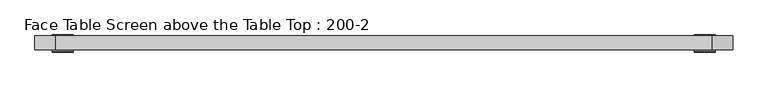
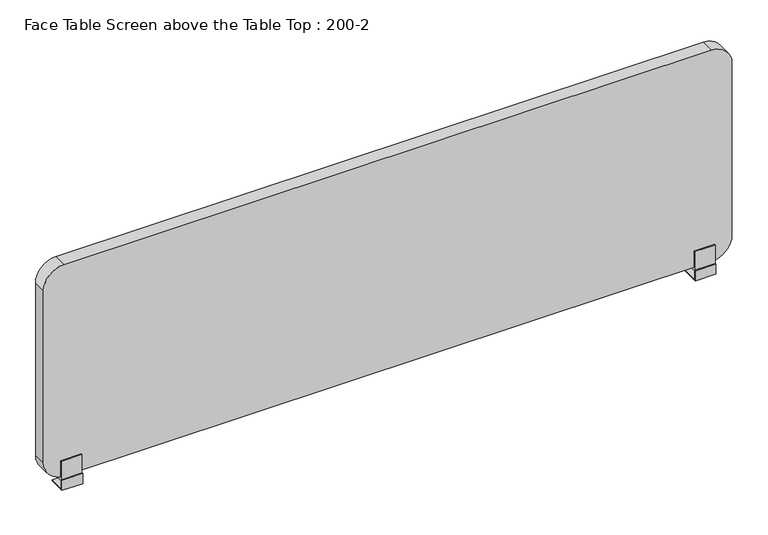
"""IFC4 building model written with IfcOpenShell, lengths in millimetres: furniture geometry, Face Table Screen above the Table Top : 200-2."""

from ifc_helpers import new_model, si_unit, point, frame, frame_2d, origin, place, context, project, spatial, polyline, circle_curve, trimmed, segment, composite_curve, outline, extrude, source, transform, mapped, element, save
from ifc_brep_helpers import plane_surface, cylinder_surface, advanced_brep


def face_table_screen_above_the_table_top_200_2_7b3353fa(model_context):
    return source(origin(), model_context, "Body", "SolidModel", [
        advanced_brep(
        [(-925.0, 0.0, -39.4406633), (-915.0, 0.0, -39.4406633), (-915.0, 0.0, -28.0), (-925.0, 0.0, -28.0), (-950.0, 23.0, -25.0), (-950.0, -23.0, -25.0), (-890.0, -23.0, -25.0), (-890.0, 23.0, -25.0), (-950.0, -23.0, 0.0), (-950.0, 23.0, -28.0), (-950.0, -26.0, -28.0), (-950.0, -26.0, 3.0), (-950.0, -23.0, 3.0), (-950.0, -23.0, 60.0), (-950.0, -20.0, 60.0), (-950.0, -20.0, 10.0), (-950.0, 20.0, 10.0), (-950.0, 20.0, 60.0), (-950.0, 23.0, 60.0), (-950.0, 23.0, 0.0), (-890.0, -23.0, 0.0), (-890.0, 23.0, 0.0), (-890.0, 23.0, 60.0), (-890.0, 20.0, 60.0), (-890.0, 20.0, 10.0), (-890.0, -20.0, 10.0), (-890.0, -20.0, 60.0), (-890.0, -23.0, 60.0), (-890.0, -23.0, 3.0), (-890.0, -26.0, 3.0), (-890.0, -26.0, -28.0), (-890.0, 23.0, -28.0)],
        [
            (0, 1, circle_curve(frame((-920.0, 0.0, -39.4406633), z_axis=(0.0, 0.0, -1.0), x_axis=(1.0, 0.0, 0.0)), 5.0)),
            (1, 0, circle_curve(frame((-920.0, 0.0, -39.4406633), z_axis=(0.0, 0.0, -1.0), x_axis=(1.0, 0.0, 0.0)), 5.0)),
            (1, 2),
            (2, 3, circle_curve(frame((-920.0, 0.0, -28.0), z_axis=(0.0, 0.0, -1.0), x_axis=(1.0, 0.0, 0.0)), 5.0)),
            (3, 0),
            (3, 2, circle_curve(frame((-920.0, 0.0, -28.0), z_axis=(0.0, 0.0, -1.0), x_axis=(1.0, 0.0, 0.0)), 5.0)),
            (4, 5),
            (5, 6),
            (6, 7),
            (7, 4),
            (8, 5),
            (4, 9),
            (9, 10),
            (10, 11),
            (11, 12),
            (12, 13),
            (13, 14),
            (14, 15),
            (15, 16),
            (16, 17),
            (17, 18),
            (18, 19),
            (19, 8),
            (20, 21),
            (21, 22),
            (22, 23),
            (23, 24),
            (24, 25),
            (25, 26),
            (26, 27),
            (27, 28),
            (28, 29),
            (29, 30),
            (30, 31),
            (31, 7),
            (6, 20),
            (19, 21),
            (20, 8),
            (18, 22),
            (17, 23),
            (16, 24),
            (15, 25),
            (14, 26),
            (13, 27),
            (12, 28),
            (11, 29),
            (10, 30),
            (9, 31),
        ],
        [
            plane_surface(frame((-915.0, 0.0, -39.4406633), z_axis=(0.0, 0.0, -1.0), x_axis=(0.0, -1.0, 0.0))),
            cylinder_surface(frame((-920.0, 0.0, -39.4406633), z_axis=(0.0, 0.0, 1.0), x_axis=(1.0, 0.0, 0.0)), 5.0),
            plane_surface(frame((-915.0, 0.0, -25.0), z_axis=(0.0, 0.0, 1.0), x_axis=(0.0, 1.0, 0.0))),
            plane_surface(frame((-950.0, 23.0, 0.0), z_axis=(-1.0, 0.0, 0.0), x_axis=(0.0, -1.0, 0.0))),
            plane_surface(frame((-890.0, 23.0, 0.0), z_axis=(1.0, 0.0, 0.0), x_axis=(0.0, 1.0, 0.0))),
            plane_surface(frame((-890.0, -23.0, 0.0), z_axis=(0.0, 0.0, -1.0), x_axis=(-1.0, 0.0, 0.0))),
            plane_surface(frame((-890.0, 23.0, 0.0), z_axis=(0.0, 1.0, 0.0), x_axis=(-1.0, 0.0, 0.0))),
            plane_surface(frame((-890.0, 23.0, 60.0), z_axis=(0.0, 0.0, 1.0), x_axis=(-1.0, 0.0, 0.0))),
            plane_surface(frame((-890.0, 20.0, 60.0), z_axis=(0.0, -1.0, 0.0), x_axis=(-1.0, 0.0, 0.0))),
            plane_surface(frame((-890.0, 20.0, 10.0), z_axis=(0.0, 0.0, 1.0), x_axis=(-1.0, 0.0, 0.0))),
            plane_surface(frame((-890.0, -20.0, 10.0), z_axis=(0.0, 1.0, 0.0), x_axis=(-1.0, 0.0, 0.0))),
            plane_surface(frame((-890.0, -20.0, 60.0), z_axis=(0.0, 0.0, 1.0), x_axis=(-1.0, 0.0, 0.0))),
            plane_surface(frame((-890.0, -23.0, 60.0), z_axis=(0.0, -1.0, 0.0), x_axis=(-1.0, 0.0, 0.0))),
            plane_surface(frame((-890.0, -23.0, 3.0), z_axis=(0.0, 0.0, 1.0), x_axis=(-1.0, 0.0, 0.0))),
            plane_surface(frame((-890.0, -26.0, 3.0), z_axis=(0.0, -1.0, 0.0), x_axis=(-1.0, 0.0, 0.0))),
            plane_surface(frame((-890.0, -26.0, -28.0), z_axis=(0.0, 0.0, -1.0), x_axis=(-1.0, 0.0, 0.0))),
            plane_surface(frame((-890.0, 23.0, -28.0), z_axis=(0.0, 1.0, 0.0), x_axis=(-1.0, 0.0, 0.0))),
            plane_surface(frame((-890.0, -23.0, -25.0), z_axis=(0.0, 1.0, 0.0), x_axis=(-1.0, 0.0, 0.0))),
        ],
        [
            (0, [[1, 2]]),
            (1, [[-2, 3, 4, 5]]),
            (1, [[-1, -5, 6, -3]]),
            (2, [[7, 8, 9, 10]]),
            (3, [[11, -7, 12, 13, 14, 15, 16, 17, 18, 19, 20, 21, 22, 23]]),
            (4, [[24, 25, 26, 27, 28, 29, 30, 31, 32, 33, 34, 35, -9, 36]]),
            (5, [[-23, 37, -24, 38]]),
            (6, [[-22, 39, -25, -37]]),
            (7, [[-21, 40, -26, -39]]),
            (8, [[-20, 41, -27, -40]]),
            (9, [[-19, 42, -28, -41]]),
            (10, [[-18, 43, -29, -42]]),
            (11, [[-17, 44, -30, -43]]),
            (12, [[-16, 45, -31, -44]]),
            (13, [[-15, 46, -32, -45]]),
            (14, [[-14, 47, -33, -46]]),
            (15, [[-13, 48, -34, -47], [-4, -6]]),
            (16, [[-12, -10, -35, -48]]),
            (17, [[-11, -38, -36, -8]]),
        ],
    ),
        advanced_brep(
        [(915.0, 0.0, -39.4406633), (925.0, 0.0, -39.4406633), (925.0, 0.0, -28.0), (915.0, 0.0, -28.0), (890.0, 23.0, -25.0), (890.0, -23.0, -25.0), (950.0, -23.0, -25.0), (950.0, 23.0, -25.0), (890.0, -23.0, 0.0), (890.0, 23.0, -28.0), (890.0, -26.0, -28.0), (890.0, -26.0, 3.0), (890.0, -23.0, 3.0), (890.0, -23.0, 60.0), (890.0, -20.0, 60.0), (890.0, -20.0, 10.0), (890.0, 20.0, 10.0), (890.0, 20.0, 60.0), (890.0, 23.0, 60.0), (890.0, 23.0, 0.0), (950.0, -23.0, 0.0), (950.0, 23.0, 0.0), (950.0, 23.0, 60.0), (950.0, 20.0, 60.0), (950.0, 20.0, 10.0), (950.0, -20.0, 10.0), (950.0, -20.0, 60.0), (950.0, -23.0, 60.0), (950.0, -23.0, 3.0), (950.0, -26.0, 3.0), (950.0, -26.0, -28.0), (950.0, 23.0, -28.0)],
        [
            (0, 1, circle_curve(frame((920.0, 0.0, -39.4406633), z_axis=(0.0, 0.0, -1.0), x_axis=(1.0, 0.0, 0.0)), 5.0)),
            (1, 0, circle_curve(frame((920.0, 0.0, -39.4406633), z_axis=(0.0, 0.0, -1.0), x_axis=(1.0, 0.0, 0.0)), 5.0)),
            (1, 2),
            (2, 3, circle_curve(frame((920.0, 0.0, -28.0), z_axis=(0.0, 0.0, -1.0), x_axis=(1.0, 0.0, 0.0)), 5.0)),
            (3, 0),
            (3, 2, circle_curve(frame((920.0, 0.0, -28.0), z_axis=(0.0, 0.0, -1.0), x_axis=(1.0, 0.0, 0.0)), 5.0)),
            (4, 5),
            (5, 6),
            (6, 7),
            (7, 4),
            (8, 5),
            (4, 9),
            (9, 10),
            (10, 11),
            (11, 12),
            (12, 13),
            (13, 14),
            (14, 15),
            (15, 16),
            (16, 17),
            (17, 18),
            (18, 19),
            (19, 8),
            (20, 21),
            (21, 22),
            (22, 23),
            (23, 24),
            (24, 25),
            (25, 26),
            (26, 27),
            (27, 28),
            (28, 29),
            (29, 30),
            (30, 31),
            (31, 7),
            (6, 20),
            (19, 21),
            (20, 8),
            (18, 22),
            (17, 23),
            (16, 24),
            (15, 25),
            (14, 26),
            (13, 27),
            (12, 28),
            (11, 29),
            (10, 30),
            (9, 31),
        ],
        [
            plane_surface(frame((925.0, 0.0, -39.4406633), z_axis=(0.0, 0.0, -1.0), x_axis=(0.0, -1.0, 0.0))),
            cylinder_surface(frame((920.0, 0.0, -39.4406633), z_axis=(0.0, 0.0, 1.0), x_axis=(1.0, 0.0, 0.0)), 5.0),
            plane_surface(frame((925.0, 0.0, -25.0), z_axis=(0.0, 0.0, 1.0), x_axis=(0.0, 1.0, 0.0))),
            plane_surface(frame((890.0, 23.0, 0.0), z_axis=(-1.0, 0.0, 0.0), x_axis=(0.0, -1.0, 0.0))),
            plane_surface(frame((950.0, 23.0, 0.0), z_axis=(1.0, 0.0, 0.0), x_axis=(0.0, 1.0, 0.0))),
            plane_surface(frame((950.0, -23.0, 0.0), z_axis=(0.0, 0.0, -1.0), x_axis=(-1.0, 0.0, 0.0))),
            plane_surface(frame((950.0, 23.0, 0.0), z_axis=(0.0, 1.0, 0.0), x_axis=(-1.0, 0.0, 0.0))),
            plane_surface(frame((950.0, 23.0, 60.0), z_axis=(0.0, 0.0, 1.0), x_axis=(-1.0, 0.0, 0.0))),
            plane_surface(frame((950.0, 20.0, 60.0), z_axis=(0.0, -1.0, 0.0), x_axis=(-1.0, 0.0, 0.0))),
            plane_surface(frame((950.0, 20.0, 10.0), z_axis=(0.0, 0.0, 1.0), x_axis=(-1.0, 0.0, 0.0))),
            plane_surface(frame((950.0, -20.0, 10.0), z_axis=(0.0, 1.0, 0.0), x_axis=(-1.0, 0.0, 0.0))),
            plane_surface(frame((950.0, -20.0, 60.0), z_axis=(0.0, 0.0, 1.0), x_axis=(-1.0, 0.0, 0.0))),
            plane_surface(frame((950.0, -23.0, 60.0), z_axis=(0.0, -1.0, 0.0), x_axis=(-1.0, 0.0, 0.0))),
            plane_surface(frame((950.0, -23.0, 3.0), z_axis=(0.0, 0.0, 1.0), x_axis=(-1.0, 0.0, 0.0))),
            plane_surface(frame((950.0, -26.0, 3.0), z_axis=(0.0, -1.0, 0.0), x_axis=(-1.0, 0.0, 0.0))),
            plane_surface(frame((950.0, -26.0, -28.0), z_axis=(0.0, 0.0, -1.0), x_axis=(-1.0, 0.0, 0.0))),
            plane_surface(frame((950.0, 23.0, -28.0), z_axis=(0.0, 1.0, 0.0), x_axis=(-1.0, 0.0, 0.0))),
            plane_surface(frame((950.0, -23.0, -25.0), z_axis=(0.0, 1.0, 0.0), x_axis=(-1.0, 0.0, 0.0))),
        ],
        [
            (0, [[1, 2]]),
            (1, [[-2, 3, 4, 5]]),
            (1, [[-1, -5, 6, -3]]),
            (2, [[7, 8, 9, 10]]),
            (3, [[11, -7, 12, 13, 14, 15, 16, 17, 18, 19, 20, 21, 22, 23]]),
            (4, [[24, 25, 26, 27, 28, 29, 30, 31, 32, 33, 34, 35, -9, 36]]),
            (5, [[-23, 37, -24, 38]]),
            (6, [[-22, 39, -25, -37]]),
            (7, [[-21, 40, -26, -39]]),
            (8, [[-20, 41, -27, -40]]),
            (9, [[-19, 42, -28, -41]]),
            (10, [[-18, 43, -29, -42]]),
            (11, [[-17, 44, -30, -43]]),
            (12, [[-16, 45, -31, -44]]),
            (13, [[-15, 46, -32, -45]]),
            (14, [[-14, 47, -33, -46]]),
            (15, [[-13, 48, -34, -47], [-4, -6]]),
            (16, [[-12, -10, -35, -48]]),
            (17, [[-11, -38, -36, -8]]),
        ],
    ),
        extrude(outline(composite_curve([segment(polyline([(660.0, 940.0), (660.0, -940.0)]), True, "CONTINUOUS"), segment(trimmed(circle_curve(frame_2d((600.0, -940.0)), 60.0), [point((660.0, -940.0))], [point((600.0, -1000.0))], False, "CARTESIAN"), True, "CONTINUOUS"), segment(polyline([(600.0, -1000.0), (70.0, -1000.0)]), True, "CONTINUOUS"), segment(trimmed(circle_curve(frame_2d((70.0, -940.0)), 60.0), [point((70.0, -1000.0))], [point((10.0, -940.0))], False, "CARTESIAN"), True, "CONTINUOUS"), segment(polyline([(10.0, -940.0), (10.0, 940.0)]), True, "CONTINUOUS"), segment(trimmed(circle_curve(frame_2d((70.0, 940.0)), 60.0), [point((10.0, 940.0))], [point((70.0, 1000.0))], False, "CARTESIAN"), True, "CONTINUOUS"), segment(polyline([(70.0, 1000.0), (600.0, 1000.0)]), True, "CONTINUOUS"), segment(trimmed(circle_curve(frame_2d((600.0, 940.0)), 60.0), [point((600.0, 1000.0))], [point((660.0, 940.0))], False, "CARTESIAN"), True, "CONTINUOUS")], self_intersect=False)), frame((0.0, -20.0, 0.0), z_axis=(0.0, 1.0, 0.0), x_axis=(0.0, 0.0, 1.0)), (0.0, 0.0, 1.0), 40.0),
    ])


if __name__ == "__main__":
    model = new_model("IFC4")
    model_context = context("Model", 3, world=origin())
    ifc_project = project(units=[si_unit("LENGTHUNIT", "METRE", prefix="MILLI")], contexts=[model_context])
    site = spatial("IfcSite", under=ifc_project)
    building = spatial("IfcBuilding", under=site)
    placement = place(None, origin())
    face_table_screen_above_the_table_top_200_2_shape = face_table_screen_above_the_table_top_200_2_7b3353fa(model_context)
    element("IfcFurniture", 1, ObjectType="Face Table Screen above the Table Top : 200-2", at=placement, inside=building, context=model_context, shape_type="MappedRepresentation", body=[
        mapped(face_table_screen_above_the_table_top_200_2_shape, transform((0.0, 0.0, 0.0), x_axis=(1.0, 0.0, 0.0), y_axis=(0.0, 1.0, 0.0), z_axis=(0.0, 0.0, 1.0))),
    ])
    save(model, "model.ifc")
